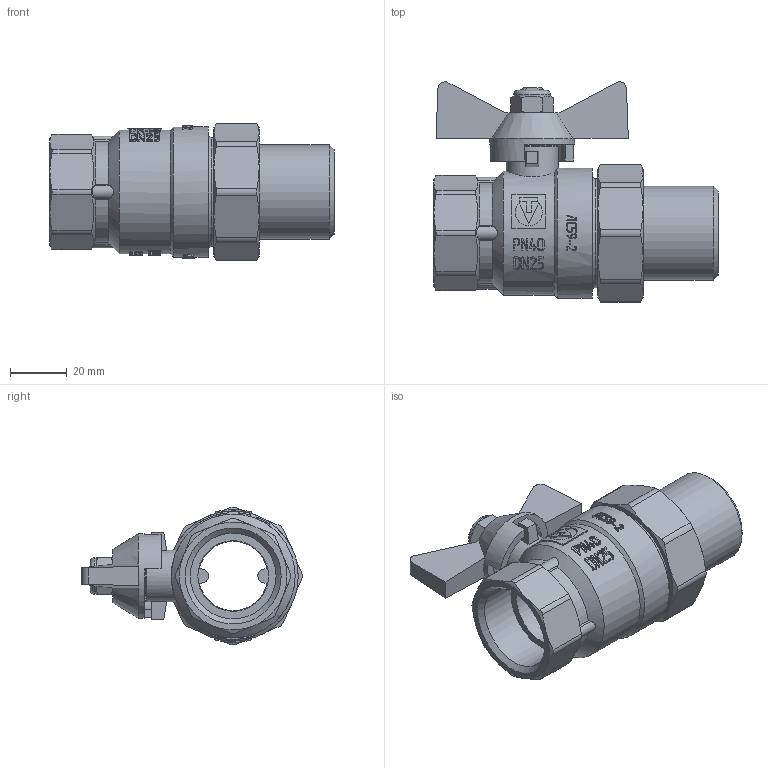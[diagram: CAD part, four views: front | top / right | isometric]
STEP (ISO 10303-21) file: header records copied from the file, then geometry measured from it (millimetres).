
FILE_DESCRIPTION(('STEP AP203'), '1');
FILE_NAME('VT.227S.N.06', '', ('UNSPECIFIED'), ('UNSPECIFIED'), 'C3D Converter', 'C3D Toolkit', '');
FILE_SCHEMA(('CONFIG_CONTROL_DESIGN'));
Length unit declared in the file: millimetre
Products named in the file (1): ВР.491816.017.000 СБ
Bounding box: 100.5 x 77.88 x 48.75 mm (x, y, z)
Volume: 90720.5 mm3; surface area: 32647.3 mm2
Topology: 1 solids, 1 shells, 1000 faces, 2745 edges, 1803 vertices
Faces by surface type: extrusion 442, plane 382, cylinder 102, cone 70, torus 4
Full cylindrical faces by diameter (mm): 9.5 x1, 12.1 x1, 13 x1, 14 x1, 18.3 x1, 24 x1, 25 x2, 30 x1, 30.292 x1, 33.249 x1, 34 x1, 38.6 x1, 43.8 x1, 46 x1
Entity records: 49698 total; most frequent: CARTESIAN_POINT 26415, ORIENTED_EDGE 5394, DIRECTION 3511, EDGE_CURVE 2697, VERTEX_POINT 1797, VECTOR 1607, B_SPLINE_CURVE_WITH_KNOTS 1522, LINE 1165
